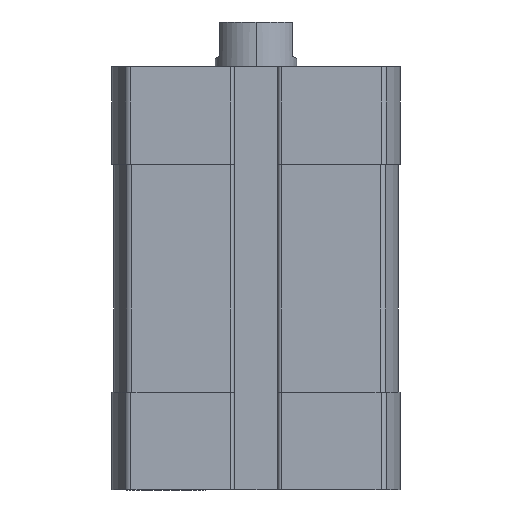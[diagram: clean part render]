
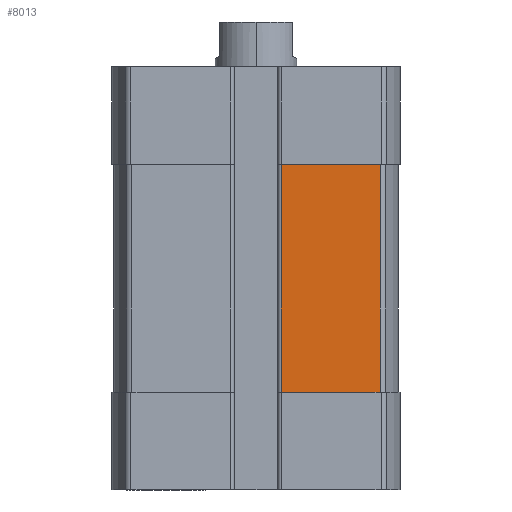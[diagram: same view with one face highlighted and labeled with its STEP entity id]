
A CAD part, left-side view. The second image highlights one B-rep face of the part: STEP entity #8013.
In plain terms, the highlighted planar face has unit normal (-1, 0, 0).
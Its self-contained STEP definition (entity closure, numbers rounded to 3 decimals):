
#1272 = VERTEX_POINT ( 'NONE', #5747 ) ;
#1285 = LINE ( 'NONE', #3746, #6324 ) ;
#1514 = DIRECTION ( 'NONE',  ( 0., 0., 1. ) ) ;
#3465 = ORIENTED_EDGE ( 'NONE', *, *, #8281, .T. ) ;
#3516 = CARTESIAN_POINT ( 'NONE',  ( -17.5, -15.253, -40. ) ) ;
#3559 = CARTESIAN_POINT ( 'NONE',  ( -17.5, -15.253, -40. ) ) ;
#3746 = CARTESIAN_POINT ( 'NONE',  ( -17.5, 0., -12. ) ) ;
#3774 = EDGE_LOOP ( 'NONE', ( #3465, #12516, #12340, #13070 ) ) ;
#4034 = DIRECTION ( 'NONE',  ( 0., 0., 1. ) ) ;
#4143 = CARTESIAN_POINT ( 'NONE',  ( -17.5, -3.1, -12. ) ) ;
#4405 = CARTESIAN_POINT ( 'NONE',  ( -17.5, -15.253, -12. ) ) ;
#4790 = CARTESIAN_POINT ( 'NONE',  ( -17.5, -3.1, -40. ) ) ;
#4899 = LINE ( 'NONE', #3516, #12694 ) ;
#5078 = LINE ( 'NONE', #7899, #10485 ) ;
#5747 = CARTESIAN_POINT ( 'NONE',  ( -17.5, -3.1, -40. ) ) ;
#5757 = EDGE_CURVE ( 'NONE', #1272, #6738, #9144, .T. ) ;
#5868 = DIRECTION ( 'NONE',  ( 0., -1., 0. ) ) ;
#5890 = FACE_OUTER_BOUND ( 'NONE', #3774, .T. ) ;
#6324 = VECTOR ( 'NONE', #8768, 1000. ) ;
#6738 = VERTEX_POINT ( 'NONE', #4143 ) ;
#6763 = VECTOR ( 'NONE', #4034, 1000. ) ;
#6846 = DIRECTION ( 'NONE',  ( 0., 0., 1. ) ) ;
#7820 = PLANE ( 'NONE',  #8648 ) ;
#7899 = CARTESIAN_POINT ( 'NONE',  ( -17.5, -3.1, -40. ) ) ;
#8013 = ADVANCED_FACE ( 'NONE', ( #5890 ), #7820, .T. ) ;
#8281 = EDGE_CURVE ( 'NONE', #1272, #12013, #5078, .T. ) ;
#8641 = VERTEX_POINT ( 'NONE', #4405 ) ;
#8648 = AXIS2_PLACEMENT_3D ( 'NONE', #4790, #12935, #6846 ) ;
#8768 = DIRECTION ( 'NONE',  ( 0., 1., 0. ) ) ;
#9048 = EDGE_CURVE ( 'NONE', #12013, #8641, #4899, .T. ) ;
#9142 = EDGE_CURVE ( 'NONE', #8641, #6738, #1285, .T. ) ;
#9144 = LINE ( 'NONE', #11153, #6763 ) ;
#10485 = VECTOR ( 'NONE', #5868, 1000. ) ;
#11153 = CARTESIAN_POINT ( 'NONE',  ( -17.5, -3.1, -40. ) ) ;
#12013 = VERTEX_POINT ( 'NONE', #3559 ) ;
#12340 = ORIENTED_EDGE ( 'NONE', *, *, #9142, .T. ) ;
#12516 = ORIENTED_EDGE ( 'NONE', *, *, #9048, .T. ) ;
#12694 = VECTOR ( 'NONE', #1514, 1000. ) ;
#12935 = DIRECTION ( 'NONE',  ( -1., 0., 0. ) ) ;
#13070 = ORIENTED_EDGE ( 'NONE', *, *, #5757, .F. ) ;
